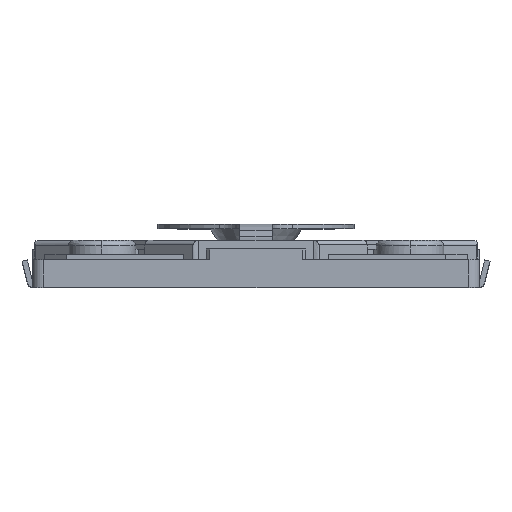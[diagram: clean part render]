
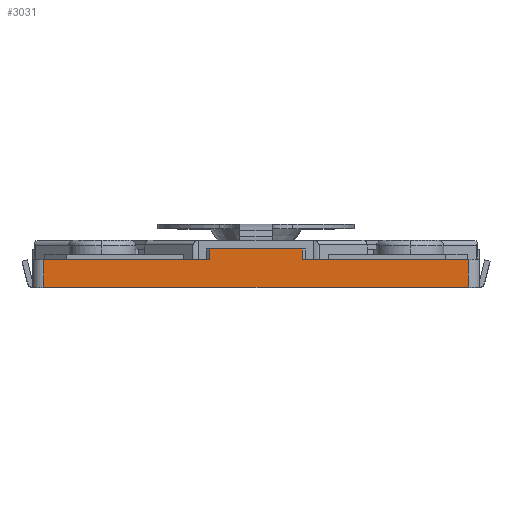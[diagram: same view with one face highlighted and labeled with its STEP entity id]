
A CAD part, top view. The second image highlights one B-rep face of the part: STEP entity #3031.
In plain terms, the highlighted planar face has unit normal (0, 0, 1).
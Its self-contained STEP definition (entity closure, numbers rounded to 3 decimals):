
#2519 = EDGE_CURVE ( 'NONE', #2520, #2521, #8088, .T. ) ;
#2520 = VERTEX_POINT ( 'NONE', #8084 ) ;
#2521 = VERTEX_POINT ( 'NONE', #8083 ) ;
#2531 = EDGE_CURVE ( 'NONE', #2521, #2532, #8236, .T. ) ;
#2532 = VERTEX_POINT ( 'NONE', #8232 ) ;
#2675 = EDGE_CURVE ( 'NONE', #2532, #2676, #8501, .T. ) ;
#2676 = VERTEX_POINT ( 'NONE', #8494 ) ;
#2904 = VERTEX_POINT ( 'NONE', #8543 ) ;
#2906 = EDGE_CURVE ( 'NONE', #2904, #2520, #8542, .T. ) ;
#2947 = EDGE_LOOP ( 'NONE', ( #2948, #2949, #2984, #2985, #2986, #2987, #3074, #3076 ) ) ;
#2948 = ORIENTED_EDGE ( 'NONE', *, *, #2675, .F. ) ;
#2949 = ORIENTED_EDGE ( 'NONE', *, *, #2531, .F. ) ;
#2984 = ORIENTED_EDGE ( 'NONE', *, *, #2519, .F. ) ;
#2985 = ORIENTED_EDGE ( 'NONE', *, *, #2906, .F. ) ;
#2986 = ORIENTED_EDGE ( 'NONE', *, *, #3027, .F. ) ;
#2987 = ORIENTED_EDGE ( 'NONE', *, *, #2988, .T. ) ;
#2988 = EDGE_CURVE ( 'NONE', #3025, #2989, #8849, .T. ) ;
#2989 = VERTEX_POINT ( 'NONE', #8825 ) ;
#3025 = VERTEX_POINT ( 'NONE', #8779 ) ;
#3027 = EDGE_CURVE ( 'NONE', #3025, #2904, #8778, .T. ) ;
#3031 = ADVANCED_FACE ( 'NONE', ( #8930 ), #8929, .F. ) ;
#3074 = ORIENTED_EDGE ( 'NONE', *, *, #3075, .F. ) ;
#3075 = EDGE_CURVE ( 'NONE', #3222, #2989, #8899, .T. ) ;
#3076 = ORIENTED_EDGE ( 'NONE', *, *, #3221, .F. ) ;
#3221 = EDGE_CURVE ( 'NONE', #2676, #3222, #9131, .T. ) ;
#3222 = VERTEX_POINT ( 'NONE', #9127 ) ;
#8083 = CARTESIAN_POINT ( 'NONE',  ( -0.425, 0.35, 2.05 ) ) ;
#8084 = CARTESIAN_POINT ( 'NONE',  ( -0.425, 0.25, 2.05 ) ) ;
#8085 = DIRECTION ( 'NONE',  ( 0., 1., 0. ) ) ;
#8086 = VECTOR ( 'NONE', #8085, 1000. ) ;
#8087 = CARTESIAN_POINT ( 'NONE',  ( -0.425, 0.35, 2.05 ) ) ;
#8088 = LINE ( 'NONE', #8087, #8086 ) ;
#8232 = CARTESIAN_POINT ( 'NONE',  ( 0.425, 0.35, 2.05 ) ) ;
#8233 = DIRECTION ( 'NONE',  ( 1., 0., 0. ) ) ;
#8234 = VECTOR ( 'NONE', #8233, 1000. ) ;
#8235 = CARTESIAN_POINT ( 'NONE',  ( 1.95, 0.35, 2.05 ) ) ;
#8236 = LINE ( 'NONE', #8235, #8234 ) ;
#8494 = CARTESIAN_POINT ( 'NONE',  ( 0.425, 0.25, 2.05 ) ) ;
#8495 = DIRECTION ( 'NONE',  ( 0., -1., 0. ) ) ;
#8496 = VECTOR ( 'NONE', #8495, 1000. ) ;
#8497 = CARTESIAN_POINT ( 'NONE',  ( 0.425, 0.35, 2.05 ) ) ;
#8501 = LINE ( 'NONE', #8497, #8496 ) ;
#8539 = DIRECTION ( 'NONE',  ( 1., 0., 0. ) ) ;
#8540 = VECTOR ( 'NONE', #8539, 1000. ) ;
#8541 = CARTESIAN_POINT ( 'NONE',  ( 1.95, 0.25, 2.05 ) ) ;
#8542 = LINE ( 'NONE', #8541, #8540 ) ;
#8543 = CARTESIAN_POINT ( 'NONE',  ( -1.95, 0.25, 2.05 ) ) ;
#8775 = DIRECTION ( 'NONE',  ( 0., 1., 0. ) ) ;
#8776 = VECTOR ( 'NONE', #8775, 1000. ) ;
#8777 = CARTESIAN_POINT ( 'NONE',  ( -1.95, 0.35, 2.05 ) ) ;
#8778 = LINE ( 'NONE', #8777, #8776 ) ;
#8779 = CARTESIAN_POINT ( 'NONE',  ( -1.95, 0., 2.05 ) ) ;
#8808 = DIRECTION ( 'NONE',  ( 1., 0., 0. ) ) ;
#8809 = CARTESIAN_POINT ( 'NONE',  ( -1.95, 0., 2.05 ) ) ;
#8825 = CARTESIAN_POINT ( 'NONE',  ( 1.95, 0., 2.05 ) ) ;
#8826 = VECTOR ( 'NONE', #8808, 1000. ) ;
#8849 = LINE ( 'NONE', #8809, #8826 ) ;
#8862 = DIRECTION ( 'NONE',  ( -1., 0., 0. ) ) ;
#8863 = DIRECTION ( 'NONE',  ( 0., 0., -1. ) ) ;
#8864 = AXIS2_PLACEMENT_3D ( 'NONE', #8928, #8863, #8862 ) ;
#8899 = LINE ( 'NONE', #8926, #8925 ) ;
#8924 = DIRECTION ( 'NONE',  ( 0., -1., 0. ) ) ;
#8925 = VECTOR ( 'NONE', #8924, 1000. ) ;
#8926 = CARTESIAN_POINT ( 'NONE',  ( 1.95, 0.35, 2.05 ) ) ;
#8928 = CARTESIAN_POINT ( 'NONE',  ( 1.95, 0.35, 2.05 ) ) ;
#8929 = PLANE ( 'NONE',  #8864 ) ;
#8930 = FACE_OUTER_BOUND ( 'NONE', #2947, .T. ) ;
#9127 = CARTESIAN_POINT ( 'NONE',  ( 1.95, 0.25, 2.05 ) ) ;
#9128 = DIRECTION ( 'NONE',  ( 1., 0., 0. ) ) ;
#9129 = VECTOR ( 'NONE', #9128, 1000. ) ;
#9130 = CARTESIAN_POINT ( 'NONE',  ( 1.95, 0.25, 2.05 ) ) ;
#9131 = LINE ( 'NONE', #9130, #9129 ) ;
